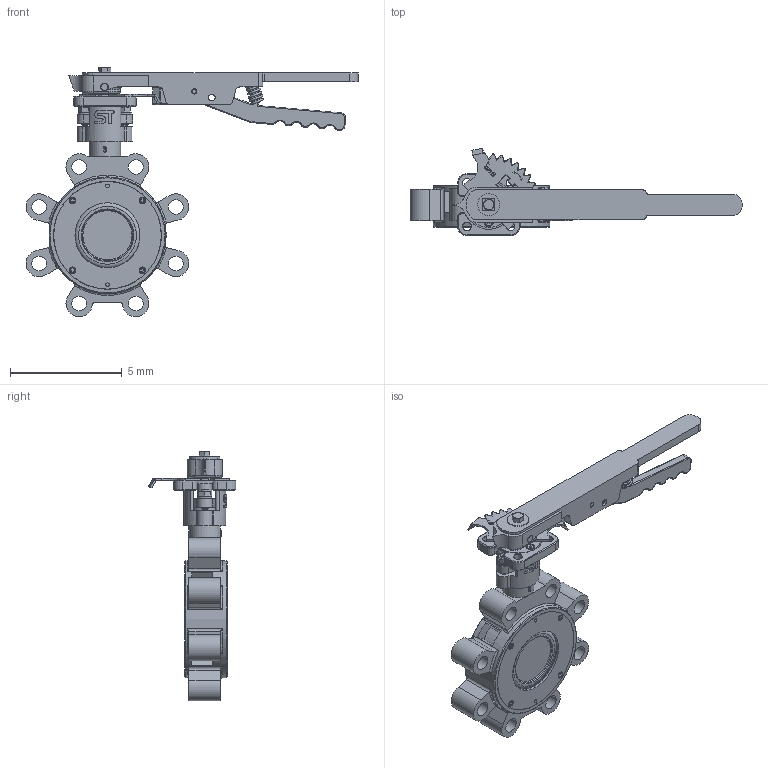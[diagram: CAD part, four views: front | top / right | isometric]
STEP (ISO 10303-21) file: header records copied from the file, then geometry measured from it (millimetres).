
FILE_DESCRIPTION(('Open CASCADE Model'),'2;1');
FILE_NAME('Open CASCADE Shape Model','2022-07-21T07:53:41',('Author'),( 'Open CASCADE'),'Open CASCADE STEP processor 7.3','Open CASCADE 7.3' ,'Unknown');
FILE_SCHEMA(('AUTOMOTIVE_DESIGN { 1 0 10303 214 1 1 1 1 }'));
Length unit declared in the file: millimetre
Products named in the file (36): Open CASCADE STEP translator 7.3 1; Open CASCADE STEP translator 7.3 1.1; Open CASCADE STEP translator 7.3 1.2; Open CASCADE STEP translator 7.3 1.3; Open CASCADE STEP translator 7.3 1.4; Open CASCADE STEP translator 7.3 1.5; Open CASCADE STEP translator 7.3 1.6; Open CASCADE STEP translator 7.3 1.7; Open CASCADE STEP translator 7.3 1.8; Open CASCADE STEP translator 7.3 1.9; Open CASCADE STEP translator 7.3 1.10; Open CASCADE STEP translator 7.3 1.11; Open CASCADE STEP translator 7.3 1.12; Open CASCADE STEP translator 7.3 1.13; Open CASCADE STEP translator 7.3 1.14; Open CASCADE STEP translator 7.3 1.15; Open CASCADE STEP translator 7.3 1.16; Open CASCADE STEP translator 7.3 1.17; Open CASCADE STEP translator 7.3 1.18; Open CASCADE STEP translator 7.3 1.19; Open CASCADE STEP translator 7.3 1.20; Open CASCADE STEP translator 7.3 1.21; Open CASCADE STEP translator 7.3 1.22; Open CASCADE STEP translator 7.3 1.23; Open CASCADE STEP translator 7.3 1.24; Open CASCADE STEP translator 7.3 1.25; Open CASCADE STEP translator 7.3 1.26; Open CASCADE STEP translator 7.3 1.27; Open CASCADE STEP translator 7.3 1.28; Open CASCADE STEP translator 7.3 1.29; Open CASCADE STEP translator 7.3 1.30; Open CASCADE STEP translator 7.3 1.31; Open CASCADE STEP translator 7.3 1.32; Open CASCADE STEP translator 7.3 1.33; Open CASCADE STEP translator 7.3 1.34; Open CASCADE STEP translator 7.3 1.35
Assembly tree (35 placements, depth 2):
  Open CASCADE STEP translator 7.3 1
    Open CASCADE STEP translator 7.3 1.1
    Open CASCADE STEP translator 7.3 1.2
    Open CASCADE STEP translator 7.3 1.3
    Open CASCADE STEP translator 7.3 1.4
    Open CASCADE STEP translator 7.3 1.5
    Open CASCADE STEP translator 7.3 1.6
    Open CASCADE STEP translator 7.3 1.7
    Open CASCADE STEP translator 7.3 1.8
    Open CASCADE STEP translator 7.3 1.9
    Open CASCADE STEP translator 7.3 1.10
    Open CASCADE STEP translator 7.3 1.11
    Open CASCADE STEP translator 7.3 1.12
    Open CASCADE STEP translator 7.3 1.13
    Open CASCADE STEP translator 7.3 1.14
    Open CASCADE STEP translator 7.3 1.15
    Open CASCADE STEP translator 7.3 1.16
    Open CASCADE STEP translator 7.3 1.17
    Open CASCADE STEP translator 7.3 1.18
    Open CASCADE STEP translator 7.3 1.19
    Open CASCADE STEP translator 7.3 1.20
    Open CASCADE STEP translator 7.3 1.21
    Open CASCADE STEP translator 7.3 1.22
    Open CASCADE STEP translator 7.3 1.23
    Open CASCADE STEP translator 7.3 1.24
    Open CASCADE STEP translator 7.3 1.25
    Open CASCADE STEP translator 7.3 1.26
    Open CASCADE STEP translator 7.3 1.27
    Open CASCADE STEP translator 7.3 1.28
    Open CASCADE STEP translator 7.3 1.29
    Open CASCADE STEP translator 7.3 1.30
    Open CASCADE STEP translator 7.3 1.31
    Open CASCADE STEP translator 7.3 1.32
    Open CASCADE STEP translator 7.3 1.33
    Open CASCADE STEP translator 7.3 1.34
    Open CASCADE STEP translator 7.3 1.35
Bounding box: 14.89 x 3.93 x 11.19 mm (x, y, z)
Volume: 57.8 mm3; surface area: 463.6 mm2
Topology: 35 solids, 35 shells, 1218 faces, 2885 edges, 1801 vertices
Faces by surface type: plane 544, cylinder 357, cone 157, torus 95, bspline 48, sphere 15, revolution 2
Full cylindrical faces by diameter (mm): 0.163 x2, 0.165 x2, 0.177 x8, 0.197 x2, 0.236 x8, 0.276 x4, 0.295 x7, 0.315 x10, 0.33 x1, 0.394 x9, 0.512 x1, 0.63 x6, 0.642 x1, 0.65 x1, 0.66 x8, 0.67 x1, 0.693 x2, 0.985 x1, 1.087 x2, 1.103 x4, 1.418 x1, 2.916 x1, 3.081 x1, 3.097 x1, 3.148 x1, 3.325 x1, 3.388 x1, 3.538 x1, 3.546 x1, 3.625 x1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
Entity records: 119169 total; most frequent: CARTESIAN_POINT 60872, DIRECTION 10784, ORIENTED_EDGE 5748, PCURVE 5748, DEFINITIONAL_REPRESENTATION 5748, LINE 5728, VECTOR 5728, EDGE_CURVE 2874
